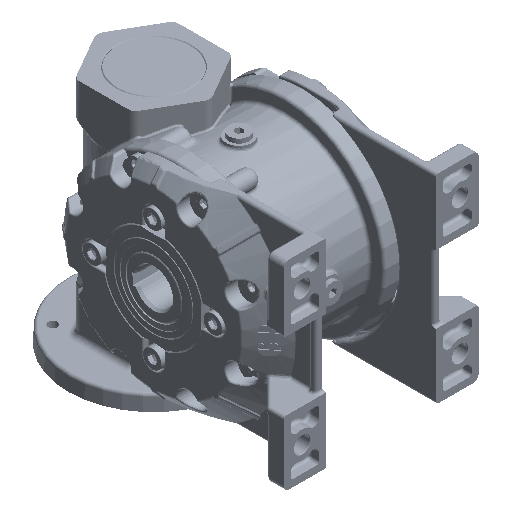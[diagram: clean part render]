
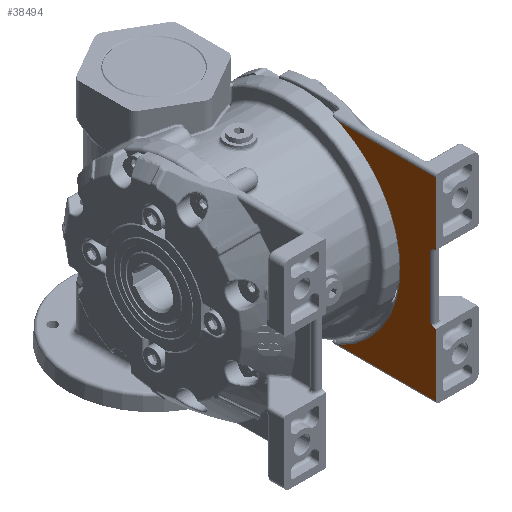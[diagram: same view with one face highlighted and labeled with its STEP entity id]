
A CAD part, isometric view. The second image highlights one B-rep face of the part: STEP entity #38494.
In plain terms, the highlighted planar face has unit normal (-1, 0, 0).
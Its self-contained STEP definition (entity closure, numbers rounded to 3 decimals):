
#33409 = VERTEX_POINT ( 'NONE', #372482 ) ;
#33413 = EDGE_CURVE ( 'NONE', #33472, #33409, #372472, .T. ) ;
#33419 = EDGE_CURVE ( 'NONE', #33420, #33422, #372436, .T. ) ;
#33420 = VERTEX_POINT ( 'NONE', #372425 ) ;
#33422 = VERTEX_POINT ( 'NONE', #372421 ) ;
#33472 = VERTEX_POINT ( 'NONE', #372675 ) ;
#38494 = ADVANCED_FACE ( 'NONE', ( #385944 ), #385953, .F. ) ;
#38501 = EDGE_LOOP ( 'NONE', ( #38712, #38723, #38732, #38736, #38739, #38746, #38666, #38674, #38677, #38689 ) ) ;
#38664 = EDGE_CURVE ( 'NONE', #38744, #38748, #386241, .T. ) ;
#38666 = ORIENTED_EDGE ( 'NONE', *, *, #38669, .T. ) ;
#38669 = EDGE_CURVE ( 'NONE', #38748, #33420, #386229, .T. ) ;
#38674 = ORIENTED_EDGE ( 'NONE', *, *, #33419, .T. ) ;
#38677 = ORIENTED_EDGE ( 'NONE', *, *, #38680, .T. ) ;
#38680 = EDGE_CURVE ( 'NONE', #33422, #38685, #386226, .T. ) ;
#38685 = VERTEX_POINT ( 'NONE', #386350 ) ;
#38689 = ORIENTED_EDGE ( 'NONE', *, *, #38692, .T. ) ;
#38692 = EDGE_CURVE ( 'NONE', #38685, #38718, #386344, .T. ) ;
#38712 = ORIENTED_EDGE ( 'NONE', *, *, #38715, .T. ) ;
#38715 = EDGE_CURVE ( 'NONE', #38718, #38720, #386320, .T. ) ;
#38718 = VERTEX_POINT ( 'NONE', #386311 ) ;
#38720 = VERTEX_POINT ( 'NONE', #386308 ) ;
#38723 = ORIENTED_EDGE ( 'NONE', *, *, #38725, .T. ) ;
#38725 = EDGE_CURVE ( 'NONE', #38720, #38729, #386303, .T. ) ;
#38729 = VERTEX_POINT ( 'NONE', #386296 ) ;
#38732 = ORIENTED_EDGE ( 'NONE', *, *, #38734, .T. ) ;
#38734 = EDGE_CURVE ( 'NONE', #38729, #33472, #386290, .T. ) ;
#38736 = ORIENTED_EDGE ( 'NONE', *, *, #33413, .T. ) ;
#38739 = ORIENTED_EDGE ( 'NONE', *, *, #38742, .T. ) ;
#38742 = EDGE_CURVE ( 'NONE', #33409, #38744, #386402, .T. ) ;
#38744 = VERTEX_POINT ( 'NONE', #386400 ) ;
#38746 = ORIENTED_EDGE ( 'NONE', *, *, #38664, .T. ) ;
#38748 = VERTEX_POINT ( 'NONE', #386405 ) ;
#372421 = CARTESIAN_POINT ( 'NONE',  ( 38.5, -160., 24. ) ) ;
#372425 = CARTESIAN_POINT ( 'NONE',  ( 38.5, -159.464, 24. ) ) ;
#372429 = DIRECTION ( 'NONE',  ( 0., -1., 0. ) ) ;
#372431 = VECTOR ( 'NONE', #372429, 1000. ) ;
#372433 = CARTESIAN_POINT ( 'NONE',  ( 38.5, -160., 24. ) ) ;
#372436 = LINE ( 'NONE', #372433, #372431 ) ;
#372465 = DIRECTION ( 'NONE',  ( 0., 1., 0. ) ) ;
#372468 = VECTOR ( 'NONE', #372465, 1000. ) ;
#372471 = CARTESIAN_POINT ( 'NONE',  ( 38.5, -160., -24. ) ) ;
#372472 = LINE ( 'NONE', #372471, #372468 ) ;
#372482 = CARTESIAN_POINT ( 'NONE',  ( 38.5, -159.464, -24. ) ) ;
#372675 = CARTESIAN_POINT ( 'NONE',  ( 38.5, -160., -24. ) ) ;
#385917 = DIRECTION ( 'NONE',  ( 0., 0., -1. ) ) ;
#385919 = DIRECTION ( 'NONE',  ( 1., 0., 0. ) ) ;
#385920 = CARTESIAN_POINT ( 'NONE',  ( 38.5, 5., 0. ) ) ;
#385922 = AXIS2_PLACEMENT_3D ( 'NONE', #385920, #385919, #385917 ) ;
#385944 = FACE_OUTER_BOUND ( 'NONE', #38501, .T. ) ;
#385953 = PLANE ( 'NONE',  #385922 ) ;
#386204 = CARTESIAN_POINT ( 'NONE',  ( 38.5, -157.83, 23.543 ) ) ;
#386206 = CARTESIAN_POINT ( 'NONE',  ( 38.5, -157.261, 23.164 ) ) ;
#386208 = CARTESIAN_POINT ( 'NONE',  ( 38.5, -156.993, 22.945 ) ) ;
#386210 = CARTESIAN_POINT ( 'NONE',  ( 38.5, -156.485, 22.485 ) ) ;
#386212 = CARTESIAN_POINT ( 'NONE',  ( 38.5, -156.242, 22.242 ) ) ;
#386214 = CARTESIAN_POINT ( 'NONE',  ( 38.5, -156., 22. ) ) ;
#386215 = DIRECTION ( 'NONE',  ( 0., 0., 1. ) ) ;
#386217 = VECTOR ( 'NONE', #386215, 1000. ) ;
#386219 = CARTESIAN_POINT ( 'NONE',  ( 38.5, -160., 24. ) ) ;
#386226 = LINE ( 'NONE', #386219, #386217 ) ;
#386229 = B_SPLINE_CURVE_WITH_KNOTS ( 'NONE', 3,
 ( #386214, #386212, #386210, #386208, #386206, #386204, #386356, #386355, #386354, #386352 ),
 .UNSPECIFIED., .F., .F.,
 ( 4, 2, 2, 2, 4 ),
 ( 0., 0.001, 0.002, 0.003, 0.004 ),
 .UNSPECIFIED. ) ;
#386236 = DIRECTION ( 'NONE',  ( 0., 0., 1. ) ) ;
#386238 = VECTOR ( 'NONE', #386236, 1000. ) ;
#386240 = CARTESIAN_POINT ( 'NONE',  ( 38.5, -156., 24. ) ) ;
#386241 = LINE ( 'NONE', #386240, #386238 ) ;
#386286 = DIRECTION ( 'NONE',  ( 0., 0., 1. ) ) ;
#386287 = VECTOR ( 'NONE', #386286, 1000. ) ;
#386289 = CARTESIAN_POINT ( 'NONE',  ( 38.5, -160., -24. ) ) ;
#386290 = LINE ( 'NONE', #386289, #386287 ) ;
#386296 = CARTESIAN_POINT ( 'NONE',  ( 38.5, -160., -68. ) ) ;
#386298 = DIRECTION ( 'NONE',  ( 0., -1., 0. ) ) ;
#386300 = VECTOR ( 'NONE', #386298, 1000. ) ;
#386301 = CARTESIAN_POINT ( 'NONE',  ( 38.5, -160., -68. ) ) ;
#386303 = LINE ( 'NONE', #386301, #386300 ) ;
#386308 = CARTESIAN_POINT ( 'NONE',  ( 38.5, -91.639, -68. ) ) ;
#386311 = CARTESIAN_POINT ( 'NONE',  ( 38.5, -91.639, 68. ) ) ;
#386313 = DIRECTION ( 'NONE',  ( 0., 0., -1. ) ) ;
#386315 = DIRECTION ( 'NONE',  ( 1., 0., 0. ) ) ;
#386317 = CARTESIAN_POINT ( 'NONE',  ( 38.5, -60., 0. ) ) ;
#386318 = AXIS2_PLACEMENT_3D ( 'NONE', #386317, #386315, #386313 ) ;
#386320 = CIRCLE ( 'NONE', #386318, 75. ) ;
#386340 = DIRECTION ( 'NONE',  ( 0., 1., 0. ) ) ;
#386342 = VECTOR ( 'NONE', #386340, 1000. ) ;
#386343 = CARTESIAN_POINT ( 'NONE',  ( 38.5, -86.739, 68. ) ) ;
#386344 = LINE ( 'NONE', #386343, #386342 ) ;
#386350 = CARTESIAN_POINT ( 'NONE',  ( 38.5, -160., 68. ) ) ;
#386352 = CARTESIAN_POINT ( 'NONE',  ( 38.5, -159.464, 24. ) ) ;
#386354 = CARTESIAN_POINT ( 'NONE',  ( 38.5, -159.117, 24. ) ) ;
#386355 = CARTESIAN_POINT ( 'NONE',  ( 38.5, -158.782, 23.934 ) ) ;
#386356 = CARTESIAN_POINT ( 'NONE',  ( 38.5, -158.131, 23.703 ) ) ;
#386380 = CARTESIAN_POINT ( 'NONE',  ( 38.5, -156., -22. ) ) ;
#386382 = CARTESIAN_POINT ( 'NONE',  ( 38.5, -156.241, -22.241 ) ) ;
#386384 = CARTESIAN_POINT ( 'NONE',  ( 38.5, -156.485, -22.485 ) ) ;
#386386 = CARTESIAN_POINT ( 'NONE',  ( 38.5, -156.993, -22.945 ) ) ;
#386388 = CARTESIAN_POINT ( 'NONE',  ( 38.5, -157.261, -23.164 ) ) ;
#386390 = CARTESIAN_POINT ( 'NONE',  ( 38.5, -157.83, -23.543 ) ) ;
#386392 = CARTESIAN_POINT ( 'NONE',  ( 38.5, -158.131, -23.703 ) ) ;
#386394 = CARTESIAN_POINT ( 'NONE',  ( 38.5, -158.782, -23.934 ) ) ;
#386396 = CARTESIAN_POINT ( 'NONE',  ( 38.5, -159.117, -24. ) ) ;
#386398 = CARTESIAN_POINT ( 'NONE',  ( 38.5, -159.464, -24. ) ) ;
#386400 = CARTESIAN_POINT ( 'NONE',  ( 38.5, -156., -22. ) ) ;
#386402 = B_SPLINE_CURVE_WITH_KNOTS ( 'NONE', 3,
 ( #386398, #386396, #386394, #386392, #386390, #386388, #386386, #386384, #386382, #386380 ),
 .UNSPECIFIED., .F., .F.,
 ( 4, 2, 2, 2, 4 ),
 ( 0., 0.001, 0.002, 0.003, 0.004 ),
 .UNSPECIFIED. ) ;
#386405 = CARTESIAN_POINT ( 'NONE',  ( 38.5, -156., 22. ) ) ;
